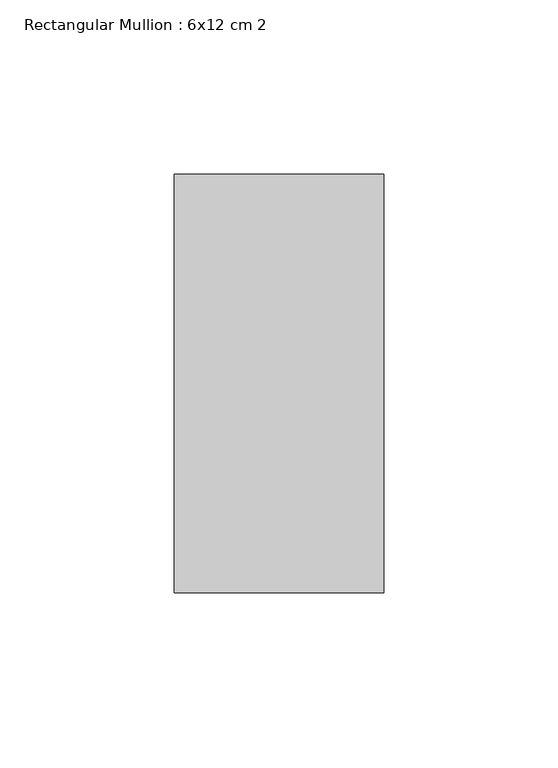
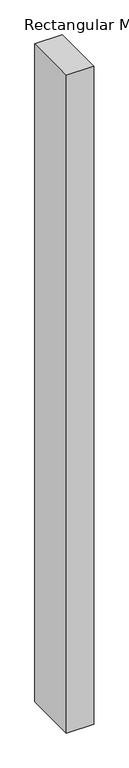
"""IFC4 building model written with IfcOpenShell, lengths in millimetres: member geometry, Rectangular Mullion : 6x12 cm 2."""

from ifc_helpers import new_model, si_unit, frame, origin, place, context, project, spatial, polyline, outline, extrude, source, transform, mapped, element, save


def rectangular_mullion_6x12_cm_2_b63210a4(model_context):
    return source(origin(), model_context, "Body", "SweptSolid", [
        extrude(outline(polyline([(0.0, 205.0), (0.0, 85.0), (-60.0, 85.0), (-60.0, 205.0), (0.0, 205.0)])), frame((0.0, 0.0, -1525.7613619), z_axis=(0.0, 0.0, 1.0), x_axis=(1.0, 0.0, 0.0)), (0.0, 0.0, 1.0), 1525.7613619),
    ])


if __name__ == "__main__":
    model = new_model("IFC4")
    model_context = context("Model", 3, world=origin())
    ifc_project = project(units=[si_unit("LENGTHUNIT", "METRE", prefix="MILLI")], contexts=[model_context])
    site = spatial("IfcSite", under=ifc_project)
    building = spatial("IfcBuilding", under=site)
    placement = place(None, origin())
    rectangular_mullion_6x12_cm_2_shape = rectangular_mullion_6x12_cm_2_b63210a4(model_context)
    element("IfcMember", 1, ObjectType="Rectangular Mullion : 6x12 cm 2", at=placement, inside=building, context=model_context, shape_type="MappedRepresentation", body=[
        mapped(rectangular_mullion_6x12_cm_2_shape, transform((0.0, 0.0, 0.0), x_axis=(1.0, 0.0, 0.0), y_axis=(0.0, 1.0, 0.0), z_axis=(0.0, 0.0, 1.0))),
    ])
    save(model, "model.ifc")
